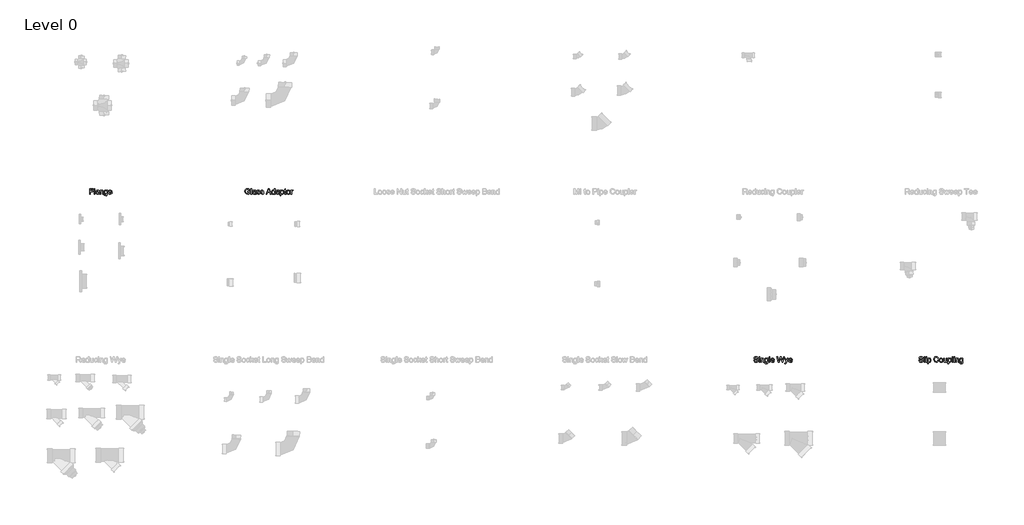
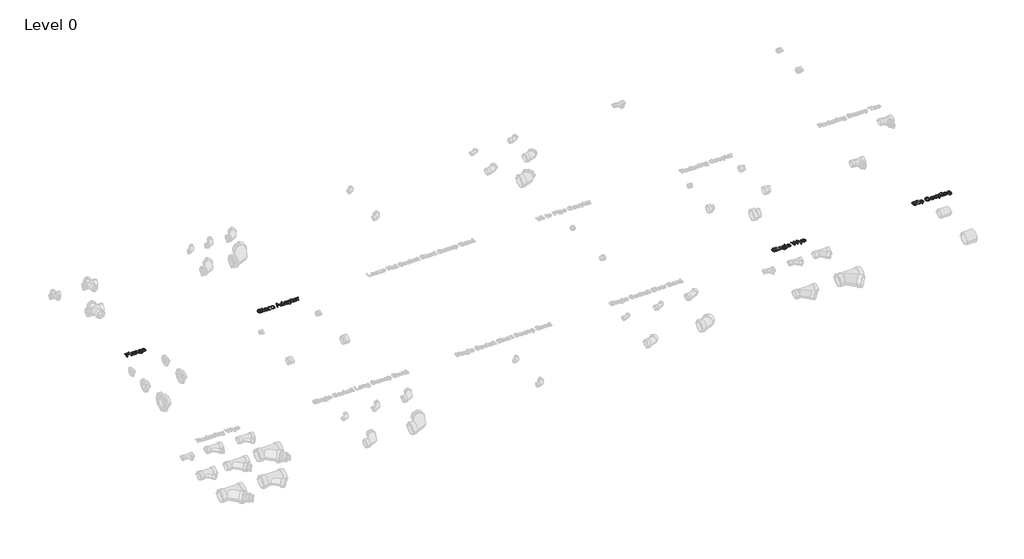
# One storey, part 4 of 10: 4 proxies.
"""IFC4 building model written with IfcOpenShell, lengths in millimetres."""

from ifc_helpers import new_model, si_unit, origin, origin_with_axes, place, context, project, spatial, polyline, outline, extrude, element, save

model = new_model("IFC4")

# Units and contexts
model_context = context("Model", 3, world=origin())
ifc_project = project(units=[si_unit("LENGTHUNIT", "METRE", prefix="MILLI")], contexts=[model_context])

# Site, building, storey
site = spatial("IfcSite", under=ifc_project)
building = spatial("IfcBuilding", under=site)
storey = spatial("IfcBuildingStorey", under=building, Name="Level 0", Elevation=0.0)

# Proxies
placement = place(None, origin())
element("IfcBuildingElementProxy", 1, Name="75mm Arial", ObjectType="75mm Arial", at=placement, inside=storey, context=model_context, shape_type="SweptSolid", body=[
    extrude(outline(polyline([(-5067.60018, 1135.4704713), (-5067.60018, 1144.7012405), (-5037.60018, 1144.7012405), (-5037.60018, 1117.0990771), (-5052.4108771, 1108.3911444), (-5068.06893, 1105.4704713), (-5087.7834733, 1110.1128992), (-5101.1608771, 1123.553404), (-5105.6771031, 1143.1868175), (-5101.178906, 1163.2619377), (-5088.2432089, 1177.0990771), (-5068.8081127, 1181.6243175), (-5054.3670069, 1179.0011203), (-5044.2438098, 1171.6994377), (-5038.6638819, 1159.4848944), (-5047.1734973, 1157.0870578), (-5051.3832329, 1165.6237165), (-5058.5767425, 1170.5455915), (-5068.9523435, 1172.3935482), (-5080.7702521, 1170.4013607), (-5088.8111175, 1165.1729953), (-5093.5617185, 1158.0606155), (-5096.4463339, 1143.5654232), (-5092.975781, 1127.474678), (-5082.8796271, 1117.8472742), (-5068.8081127, 1114.7012405), (-5056.178906, 1117.0720338), (-5046.8309492, 1122.1291252), (-5046.8309492, 1135.4704713), (-5067.60018, 1135.4704713)])), origin_with_axes(), (0.0, 0.0, 1.0), 10.0),
    extrude(outline(polyline([(-5023.7540262, 1106.6243175), (-5023.7540262, 1180.4704713), (-5014.5232569, 1180.4704713), (-5014.5232569, 1106.6243175), (-5023.7540262, 1106.6243175)])), origin_with_axes(), (0.0, 0.0, 1.0), 10.0),
    extrude(outline(polyline([(-4966.0617185, 1113.5473944), (-4975.0130406, 1107.2913848), (-4984.9018627, 1105.4704713), (-4998.3063098, 1109.8514809), (-5002.9847954, 1121.0473944), (-5001.2179685, 1128.3490771), (-4996.5755406, 1133.6495578), (-4990.1121992, 1136.678404), (-4982.1254204, 1138.0666252), (-4966.115805, 1141.2397021), (-4966.0617185, 1143.2949905), (-4968.6037858, 1150.1098944), (-4978.8081127, 1152.7781636), (-4988.147055, 1151.0023223), (-4992.60018, 1144.7012405), (-5001.8309492, 1145.8550867), (-4997.8375598, 1154.8695098), (-4989.7966944, 1160.1519617), (-4977.6182089, 1162.0089328), (-4966.4313098, 1160.3683078), (-4960.1121992, 1156.2487165), (-4957.2816704, 1149.9836925), (-4956.8309492, 1141.9067694), (-4956.8309492, 1130.4223944), (-4956.3621992, 1114.3857357), (-4954.5232569, 1106.6243175), (-4963.7540262, 1106.6243175), (-4966.0617185, 1113.5473944)]), holes=[polyline([(-4966.0617185, 1132.0089328), (-4980.9535454, 1129.178404), (-4988.8952521, 1127.6820098), (-4992.4920069, 1125.2481155), (-4993.7540262, 1121.6964328), (-4991.0046271, 1116.7024425), (-4982.9367185, 1114.7012405), (-4973.5977762, 1116.9097742), (-4967.5761416, 1122.2553271), (-4966.115805, 1129.3947502), (-4966.0617185, 1132.0089328)])]), origin_with_axes(), (0.0, 0.0, 1.0), 10.0),
    extrude(outline(polyline([(-4947.60018, 1122.7781636), (-4938.3694108, 1123.9320098), (-4934.0965742, 1117.0810482), (-4924.3069108, 1114.7012405), (-4914.8958531, 1116.8827309), (-4911.8309492, 1122.0029232), (-4914.9138819, 1126.1495578), (-4924.4150839, 1128.7817694), (-4938.3153242, 1133.2979953), (-4944.382031, 1138.5714328), (-4946.4463339, 1146.0173463), (-4944.78768, 1152.8953511), (-4940.2624396, 1158.1507598), (-4934.3940502, 1160.88213), (-4926.4523435, 1162.0089328), (-4915.2203723, 1160.1970338), (-4908.0809492, 1155.2931877), (-4904.9078723, 1147.0089328), (-4914.1386416, 1145.8550867), (-4917.6091944, 1150.9482357), (-4925.7311896, 1152.7781636), (-4934.5653242, 1151.0293655), (-4937.2155646, 1146.9548463), (-4936.115805, 1144.2685482), (-4932.6722954, 1142.2312886), (-4924.7215742, 1140.2661444), (-4911.1728964, 1135.9211925), (-4904.8808291, 1130.9993175), (-4902.60018, 1122.9764809), (-4905.2774637, 1114.1423463), (-4913.0028242, 1107.7330915), (-4924.4331127, 1105.4704713), (-4940.5328723, 1109.8334521), (-4947.60018, 1122.7781636)])), origin_with_axes(), (0.0, 0.0, 1.0), 10.0),
    extrude(outline(polyline([(-4895.6771031, 1122.7781636), (-4886.4463339, 1123.9320098), (-4882.1734973, 1117.0810482), (-4872.3838339, 1114.7012405), (-4862.9727762, 1116.8827309), (-4859.9078723, 1122.0029232), (-4862.990805, 1126.1495578), (-4872.4920069, 1128.7817694), (-4886.3922473, 1133.2979953), (-4892.4589541, 1138.5714328), (-4894.5232569, 1146.0173463), (-4892.8646031, 1152.8953511), (-4888.3393627, 1158.1507598), (-4882.4709733, 1160.88213), (-4874.5292666, 1162.0089328), (-4863.2972954, 1160.1970338), (-4856.1578723, 1155.2931877), (-4852.9847954, 1147.0089328), (-4862.2155646, 1145.8550867), (-4865.6861175, 1150.9482357), (-4873.8081127, 1152.7781636), (-4882.6422473, 1151.0293655), (-4885.2924877, 1146.9548463), (-4884.1927281, 1144.2685482), (-4880.7492185, 1142.2312886), (-4872.7984973, 1140.2661444), (-4859.2498194, 1135.9211925), (-4852.9577521, 1130.9993175), (-4850.6771031, 1122.9764809), (-4853.3543867, 1114.1423463), (-4861.0797473, 1107.7330915), (-4872.5100358, 1105.4704713), (-4888.6097954, 1109.8334521), (-4895.6771031, 1122.7781636)])), origin_with_axes(), (0.0, 0.0, 1.0), 10.0),
    extrude(outline(polyline([(-4818.8922473, 1106.6243175), (-4789.4150839, 1180.4704713), (-4781.5545069, 1180.4704713), (-4752.0773435, 1106.6243175), (-4761.8309492, 1106.6243175), (-4770.2864781, 1129.7012405), (-4800.7011416, 1129.7012405), (-4809.1386416, 1106.6243175), (-4818.8922473, 1106.6243175)]), holes=[polyline([(-4797.3117185, 1138.9320098), (-4773.6578723, 1138.9320098), (-4780.3105166, 1157.0870578), (-4785.4847954, 1171.2397021), (-4790.0821512, 1158.6735963), (-4797.3117185, 1138.9320098)])]), origin_with_axes(), (0.0, 0.0, 1.0), 10.0),
    extrude(outline(polyline([(-4709.9078723, 1106.6243175), (-4709.9078723, 1115.3322502), (-4716.015144, 1107.935916), (-4724.4571512, 1105.4704713), (-4735.8874396, 1109.0401828), (-4743.9643627, 1119.0011203), (-4746.8309492, 1133.6856155), (-4744.1897233, 1148.3791252), (-4736.2750598, 1158.4933078), (-4724.4932089, 1162.0089328), (-4715.9835935, 1159.4939088), (-4709.9078723, 1152.9584521), (-4709.9078723, 1180.4704713), (-4700.6771031, 1180.4704713), (-4700.6771031, 1106.6243175), (-4709.9078723, 1106.6243175)]), holes=[polyline([(-4737.60018, 1133.7216732), (-4733.4355166, 1119.4338127), (-4723.6097954, 1114.7012405), (-4713.9012617, 1119.2174665), (-4709.9078723, 1133.0185482), (-4713.9733771, 1148.0005194), (-4723.9884012, 1152.7781636), (-4733.7059492, 1148.1898223), (-4737.60018, 1133.7216732)])]), origin_with_axes(), (0.0, 0.0, 1.0), 10.0),
    extrude(outline(polyline([(-4652.2155646, 1113.5473944), (-4661.1668867, 1107.2913848), (-4671.0557089, 1105.4704713), (-4684.460156, 1109.8514809), (-4689.1386416, 1121.0473944), (-4687.3718146, 1128.3490771), (-4682.7293867, 1133.6495578), (-4676.2660454, 1136.678404), (-4668.2792666, 1138.0666252), (-4652.2696512, 1141.2397021), (-4652.2155646, 1143.2949905), (-4654.7576319, 1150.1098944), (-4664.9619589, 1152.7781636), (-4674.3009012, 1151.0023223), (-4678.7540262, 1144.7012405), (-4687.9847954, 1145.8550867), (-4683.991406, 1154.8695098), (-4675.9505406, 1160.1519617), (-4663.772055, 1162.0089328), (-4652.585156, 1160.3683078), (-4646.2660454, 1156.2487165), (-4643.4355166, 1149.9836925), (-4642.9847954, 1141.9067694), (-4642.9847954, 1130.4223944), (-4642.5160454, 1114.3857357), (-4640.6771031, 1106.6243175), (-4649.9078723, 1106.6243175), (-4652.2155646, 1113.5473944)]), holes=[polyline([(-4652.2155646, 1132.0089328), (-4667.1073916, 1129.178404), (-4675.0490983, 1127.6820098), (-4678.6458531, 1125.2481155), (-4679.9078723, 1121.6964328), (-4677.1584733, 1116.7024425), (-4669.0905646, 1114.7012405), (-4659.7516223, 1116.9097742), (-4653.7299877, 1122.2553271), (-4652.2696512, 1129.3947502), (-4652.2155646, 1132.0089328)])]), origin_with_axes(), (0.0, 0.0, 1.0), 10.0),
    extrude(outline(polyline([(-4630.2924877, 1085.8550867), (-4630.2924877, 1160.8550867), (-4621.0617185, 1160.8550867), (-4621.0617185, 1151.8046059), (-4614.6795069, 1159.4578511), (-4606.0617185, 1162.0089328), (-4594.3609973, 1158.4392213), (-4586.7167666, 1148.3791252), (-4584.1386416, 1134.1543655), (-4587.0503002, 1119.1994377), (-4595.5058291, 1109.0131396), (-4607.1795069, 1105.4704713), (-4615.2113579, 1107.8412646), (-4621.0617185, 1113.8358559), (-4621.0617185, 1085.8550867), (-4630.2924877, 1085.8550867)]), holes=[polyline([(-4621.0617185, 1133.3070098), (-4617.0683291, 1119.2445098), (-4607.3778242, 1114.7012405), (-4597.4890021, 1119.4067694), (-4593.3694108, 1133.9921059), (-4597.3898435, 1148.0906636), (-4606.9992185, 1152.7781636), (-4616.7978964, 1147.7931877), (-4621.0617185, 1133.3070098)])]), origin_with_axes(), (0.0, 0.0, 1.0), 10.0),
    extrude(outline(polyline([(-4554.1386416, 1114.3226348), (-4552.9847954, 1106.3538848), (-4559.8898435, 1105.4704713), (-4567.6242185, 1107.0029232), (-4571.4823916, 1111.0233559), (-4572.60018, 1121.4981155), (-4572.60018, 1151.6243175), (-4579.5232569, 1151.6243175), (-4579.5232569, 1160.8550867), (-4572.60018, 1160.8550867), (-4572.60018, 1174.0341732), (-4563.3694108, 1179.4608559), (-4563.3694108, 1160.8550867), (-4554.1386416, 1160.8550867), (-4554.1386416, 1151.6243175), (-4563.3694108, 1151.6243175), (-4563.3694108, 1121.7685482), (-4562.8826319, 1117.0089328), (-4561.3051079, 1115.3232357), (-4558.1590742, 1114.7012405), (-4554.1386416, 1114.3226348)])), origin_with_axes(), (0.0, 0.0, 1.0), 10.0),
    extrude(outline(polyline([(-4547.2155646, 1133.7397021), (-4545.2188699, 1146.8151228), (-4539.2287858, 1156.0053271), (-4531.8279444, 1160.5080314), (-4522.9667666, 1162.0089328), (-4513.2695009, 1160.1812586), (-4505.5238579, 1154.6982357), (-4500.4464841, 1145.9925566), (-4498.7540262, 1134.4969136), (-4501.7468146, 1118.0726348), (-4510.4637617, 1108.7787646), (-4522.9667666, 1105.4704713), (-4532.7812197, 1107.2913848), (-4540.5178483, 1112.7541252), (-4545.5411355, 1121.6423463), (-4547.2155646, 1133.7397021)]), holes=[polyline([(-4537.9847954, 1133.7577309), (-4533.7119589, 1119.4518415), (-4522.9667666, 1114.7012405), (-4512.2576319, 1119.4788848), (-4507.9847954, 1134.0461925), (-4512.2846752, 1148.0275627), (-4522.9667666, 1152.7781636), (-4533.7119589, 1148.0455915), (-4537.9847954, 1133.7577309)])]), origin_with_axes(), (0.0, 0.0, 1.0), 10.0),
    extrude(outline(polyline([(-4488.3694108, 1106.6243175), (-4488.3694108, 1160.8550867), (-4480.2924877, 1160.8550867), (-4480.2924877, 1152.8322502), (-4474.5593146, 1160.2240771), (-4468.7900839, 1162.0089328), (-4459.5232569, 1159.1603752), (-4462.6061896, 1150.8851348), (-4469.0965742, 1152.7781636), (-4474.3159252, 1150.9572502), (-4477.6422473, 1145.9091732), (-4479.1386416, 1135.1279232), (-4479.1386416, 1106.6243175), (-4488.3694108, 1106.6243175)])), origin_with_axes(), (0.0, 0.0, 1.0), 10.0),
])
element("IfcBuildingElementProxy", 2, Name="75mm Arial", ObjectType="75mm Arial", at=placement, inside=storey, context=model_context, shape_type="SweptSolid", body=[
    extrude(outline(polyline([(-7183.1771031, 1106.6243175), (-7183.1771031, 1180.4704713), (-7133.5617185, 1180.4704713), (-7133.5617185, 1171.2397021), (-7173.9463339, 1171.2397021), (-7173.9463339, 1149.3166252), (-7139.3309492, 1149.3166252), (-7139.3309492, 1140.0858559), (-7173.9463339, 1140.0858559), (-7173.9463339, 1106.6243175), (-7183.1771031, 1106.6243175)])), origin_with_axes(), (0.0, 0.0, 1.0), 10.0),
    extrude(outline(polyline([(-7122.0232569, 1106.6243175), (-7122.0232569, 1180.4704713), (-7112.7924877, 1180.4704713), (-7112.7924877, 1106.6243175), (-7122.0232569, 1106.6243175)])), origin_with_axes(), (0.0, 0.0, 1.0), 10.0),
    extrude(outline(polyline([(-7064.3309492, 1113.5473944), (-7073.2822714, 1107.2913848), (-7083.1710935, 1105.4704713), (-7096.5755406, 1109.8514809), (-7101.2540262, 1121.0473944), (-7099.4871992, 1128.3490771), (-7094.8447714, 1133.6495578), (-7088.38143, 1136.678404), (-7080.3946512, 1138.0666252), (-7064.3850358, 1141.2397021), (-7064.3309492, 1143.2949905), (-7066.8730166, 1150.1098944), (-7077.0773435, 1152.7781636), (-7086.4162858, 1151.0023223), (-7090.8694108, 1144.7012405), (-7100.10018, 1145.8550867), (-7096.1067906, 1154.8695098), (-7088.0659252, 1160.1519617), (-7075.8874396, 1162.0089328), (-7064.7005406, 1160.3683078), (-7058.38143, 1156.2487165), (-7055.5509012, 1149.9836925), (-7055.10018, 1141.9067694), (-7055.10018, 1130.4223944), (-7054.63143, 1114.3857357), (-7052.7924877, 1106.6243175), (-7062.0232569, 1106.6243175), (-7064.3309492, 1113.5473944)]), holes=[polyline([(-7064.3309492, 1132.0089328), (-7079.2227762, 1129.178404), (-7087.1644829, 1127.6820098), (-7090.7612377, 1125.2481155), (-7092.0232569, 1121.6964328), (-7089.2738579, 1116.7024425), (-7081.2059492, 1114.7012405), (-7071.8670069, 1116.9097742), (-7065.8453723, 1122.2553271), (-7064.3850358, 1129.3947502), (-7064.3309492, 1132.0089328)])]), origin_with_axes(), (0.0, 0.0, 1.0), 10.0),
    extrude(outline(polyline([(-7042.4078723, 1106.6243175), (-7042.4078723, 1160.8550867), (-7033.1771031, 1160.8550867), (-7033.1771031, 1153.2829713), (-7026.1188098, 1159.8274425), (-7016.4823916, 1162.0089328), (-7007.7654444, 1160.2511203), (-7001.8159252, 1155.6357357), (-6999.0484973, 1148.8478752), (-6998.5617185, 1139.9235963), (-6998.5617185, 1106.6243175), (-7007.7924877, 1106.6243175), (-7007.7924877, 1138.6796059), (-7008.8561896, 1146.8466732), (-7012.6152041, 1151.1645819), (-7018.9523435, 1152.7781636), (-7028.9673675, 1149.1543655), (-7033.1771031, 1135.3983559), (-7033.1771031, 1106.6243175), (-7042.4078723, 1106.6243175)])), origin_with_axes(), (0.0, 0.0, 1.0), 10.0),
    extrude(outline(polyline([(-6988.1771031, 1102.0089328), (-6978.9463339, 1100.8550867), (-6975.9535454, 1095.9872982), (-6966.9932089, 1093.9320098), (-6957.5460935, 1096.2577309), (-6953.0388819, 1102.7841732), (-6952.4078723, 1113.5473944), (-6958.9072714, 1108.3550867), (-6966.8309492, 1106.6243175), (-6976.3479264, 1108.639041), (-6983.444531, 1114.6832117), (-6987.8593447, 1123.5443896), (-6989.3309492, 1134.0101348), (-6986.6897233, 1148.3160242), (-6979.0454925, 1158.4392213), (-6967.2816704, 1162.0089328), (-6959.0469949, 1159.9897021), (-6952.4078723, 1153.9320098), (-6952.4078723, 1160.8550867), (-6943.1771031, 1160.8550867), (-6943.1771031, 1114.0341732), (-6945.7011416, 1096.1044857), (-6953.6969348, 1087.7661444), (-6967.1734973, 1084.7012405), (-6982.5250598, 1089.0191492), (-6986.8632509, 1094.4255494), (-6988.1771031, 1102.0089328)]), holes=[polyline([(-6980.10018, 1134.6411444), (-6976.1608771, 1120.3532838), (-6966.272055, 1115.8550867), (-6956.4012617, 1120.3262405), (-6952.4078723, 1134.3707117), (-6956.5184492, 1148.1357357), (-6966.4162858, 1152.7781636), (-6976.1067906, 1148.2078511), (-6980.10018, 1134.6411444)])]), origin_with_axes(), (0.0, 0.0, 1.0), 10.0),
    extrude(outline(polyline([(-6891.3621992, 1122.7781636), (-6882.3117185, 1121.6243175), (-6890.7762617, 1109.7072502), (-6906.5424877, 1105.4704713), (-6917.373317, 1107.2981456), (-6925.7071512, 1112.7811684), (-6931.0211536, 1121.5634701), (-6932.7924877, 1133.2889809), (-6931.0031247, 1145.4088728), (-6925.6350358, 1154.4728752), (-6917.4138819, 1160.1249184), (-6907.0653242, 1162.0089328), (-6897.0390322, 1160.1294256), (-6889.0274637, 1154.490904), (-6883.7743086, 1145.4449304), (-6882.0232569, 1133.3430675), (-6882.0773435, 1130.8550867), (-6923.5617185, 1130.8550867), (-6918.2522233, 1118.865904), (-6906.3621992, 1114.7012405), (-6897.3117185, 1116.6303271), (-6891.3621992, 1122.7781636)]), holes=[polyline([(-6923.5617185, 1140.0858559), (-6891.2540262, 1140.0858559), (-6894.9499396, 1148.4512405), (-6907.1013819, 1152.7781636), (-6918.4685694, 1149.3256396), (-6923.5617185, 1140.0858559)])]), origin_with_axes(), (0.0, 0.0, 1.0), 10.0),
])
element("IfcBuildingElementProxy", 3, Name="75mm Arial", ObjectType="75mm Arial", at=placement, inside=storey, context=model_context, shape_type="SweptSolid", body=[
    extrude(outline(polyline([(3917.9767431, -1117.9910672), (3927.2075123, -1117.9910672), (3930.1822719, -1127.2308508), (3937.4478969, -1133.072197), (3948.5176084, -1135.2987595), (3958.1630411, -1133.6130623), (3964.3920075, -1128.9796489), (3966.4382815, -1122.7867402), (3964.9058296, -1117.0265239), (3958.6317911, -1112.8348172), (3945.1912863, -1109.3101777), (3930.7231373, -1104.7578941), (3922.8715748, -1097.8889037), (3920.2844354, -1088.712221), (3923.4845556, -1078.2645047), (3932.8325123, -1070.8907066), (3946.5164065, -1068.3756825), (3961.1197719, -1071.0078941), (3970.8553488, -1078.7422691), (3974.5152046, -1090.2987595), (3965.2844354, -1090.2987595), (3960.05607, -1080.8155864), (3946.8769834, -1077.6064518), (3933.6618392, -1080.7795287), (3929.5152046, -1088.4417883), (3932.4539065, -1094.8420287), (3947.5260219, -1099.9982787), (3963.8601565, -1104.6316922), (3972.7934498, -1112.1136633), (3975.6690508, -1122.5523652), (3972.3607575, -1133.5950335), (3962.8415267, -1141.6539277), (3948.8781854, -1144.5295287), (3932.3908056, -1141.4285672), (3921.9611181, -1132.0896248), (3917.9767431, -1117.9910672)])), origin_with_axes(), (0.0, 0.0, 1.0), 10.0),
    extrude(outline(polyline([(3988.3613584, -1143.3756825), (3988.3613584, -1069.5295287), (3997.5921277, -1069.5295287), (3997.5921277, -1143.3756825), (3988.3613584, -1143.3756825)])), origin_with_axes(), (0.0, 0.0, 1.0), 10.0),
    extrude(outline(polyline([(4011.4382815, -1143.3756825), (4011.4382815, -1089.1449133), (4020.6690508, -1089.1449133), (4020.6690508, -1143.3756825), (4011.4382815, -1143.3756825)])), origin_with_axes(), (0.0, 0.0, 1.0), 10.0),
    extrude(outline(polyline([(4011.4382815, -1078.7602979), (4011.4382815, -1069.5295287), (4020.6690508, -1069.5295287), (4020.6690508, -1078.7602979), (4011.4382815, -1078.7602979)])), origin_with_axes(), (0.0, 0.0, 1.0), 10.0),
    extrude(outline(polyline([(4034.5152046, -1164.1449133), (4034.5152046, -1089.1449133), (4043.7459738, -1089.1449133), (4043.7459738, -1098.1953941), (4050.1281854, -1090.5421489), (4058.7459738, -1087.9910672), (4070.446695, -1091.5607787), (4078.0909258, -1101.6208748), (4080.6690508, -1115.8456345), (4077.7573921, -1130.8005623), (4069.3018633, -1140.9868604), (4057.6281854, -1144.5295287), (4049.5963344, -1142.1587354), (4043.7459738, -1136.1641441), (4043.7459738, -1164.1449133), (4034.5152046, -1164.1449133)]), holes=[polyline([(4043.7459738, -1116.6929902), (4047.7393633, -1130.7554902), (4057.4298681, -1135.2987595), (4067.3186902, -1130.5932306), (4071.4382815, -1116.0078941), (4067.4178488, -1101.9093364), (4057.8084738, -1097.2218364), (4048.0097959, -1102.2068123), (4043.7459738, -1116.6929902)])]), origin_with_axes(), (0.0, 0.0, 1.0), 10.0),
    extrude(outline(polyline([(4172.9767431, -1117.1256825), (4182.2075123, -1119.5054902), (4177.9481974, -1130.2619506), (4171.2640027, -1138.1202739), (4162.4839546, -1142.927215), (4151.9370796, -1144.5295287), (4132.727344, -1139.6797691), (4121.4593152, -1125.6352979), (4117.5921277, -1105.8937114), (4121.9641229, -1085.8276056), (4134.3950123, -1072.8197931), (4152.1353969, -1068.3756825), (4162.2563404, -1069.813483), (4170.6239786, -1074.1268845), (4176.9768933, -1081.0499614), (4181.0536661, -1090.3167883), (4171.8228969, -1092.5163075), (4164.2507815, -1081.1671489), (4151.77482, -1077.6064518), (4137.3337142, -1081.5547691), (4129.1756613, -1092.1557306), (4126.8228969, -1105.8756825), (4129.6083536, -1121.7771248), (4138.2802286, -1131.9363797), (4151.0176084, -1135.2987595), (4165.1432094, -1130.7194325), (4172.9767431, -1117.1256825)])), origin_with_axes(), (0.0, 0.0, 1.0), 10.0),
    extrude(outline(polyline([(4191.4382815, -1116.2602979), (4193.4349762, -1103.1848772), (4199.4250604, -1093.9946729), (4206.8259017, -1089.4919686), (4215.6870796, -1087.9910672), (4225.3843452, -1089.8187414), (4233.1299883, -1095.3017643), (4238.2073621, -1104.0074434), (4239.89982, -1115.5030864), (4236.9070315, -1131.9273652), (4228.1900844, -1141.2212354), (4215.6870796, -1144.5295287), (4205.8726265, -1142.7086152), (4198.1359979, -1137.2458748), (4193.1127106, -1128.3576537), (4191.4382815, -1116.2602979)]), holes=[polyline([(4200.6690508, -1116.2422691), (4204.9418873, -1130.5481585), (4215.6870796, -1135.2987595), (4226.3962142, -1130.5211152), (4230.6690508, -1115.9538075), (4226.3691709, -1101.9724373), (4215.6870796, -1097.2218364), (4204.9418873, -1101.9544085), (4200.6690508, -1116.2422691)])]), origin_with_axes(), (0.0, 0.0, 1.0), 10.0),
    extrude(outline(polyline([(4284.89982, -1143.3756825), (4284.89982, -1134.0547691), (4277.6702527, -1141.9108388), (4268.2411661, -1144.5295287), (4259.5602767, -1142.6905864), (4253.5746998, -1138.0752018), (4250.8253008, -1131.2783268), (4250.2844354, -1122.696596), (4250.2844354, -1089.1449133), (4259.5152046, -1089.1449133), (4259.5152046, -1118.3516441), (4260.0740988, -1127.7627018), (4263.7249402, -1133.2885431), (4270.602945, -1135.2987595), (4278.3102767, -1133.243471), (4283.4034258, -1127.6455143), (4284.89982, -1117.3600575), (4284.89982, -1089.1449133), (4294.1305892, -1089.1449133), (4294.1305892, -1143.3756825), (4284.89982, -1143.3756825)])), origin_with_axes(), (0.0, 0.0, 1.0), 10.0),
    extrude(outline(polyline([(4306.8228969, -1164.1449133), (4306.8228969, -1089.1449133), (4316.0536661, -1089.1449133), (4316.0536661, -1098.1953941), (4322.4358777, -1090.5421489), (4331.0536661, -1087.9910672), (4342.7543873, -1091.5607787), (4350.3986181, -1101.6208748), (4352.9767431, -1115.8456345), (4350.0650844, -1130.8005623), (4341.6095556, -1140.9868604), (4329.9358777, -1144.5295287), (4321.9040267, -1142.1587354), (4316.0536661, -1136.1641441), (4316.0536661, -1164.1449133), (4306.8228969, -1164.1449133)]), holes=[polyline([(4316.0536661, -1116.6929902), (4320.0470556, -1130.7554902), (4329.7375604, -1135.2987595), (4339.6263825, -1130.5932306), (4343.7459738, -1116.0078941), (4339.7255411, -1101.9093364), (4330.1161661, -1097.2218364), (4320.3174883, -1102.2068123), (4316.0536661, -1116.6929902)])]), origin_with_axes(), (0.0, 0.0, 1.0), 10.0),
    extrude(outline(polyline([(4363.3613584, -1143.3756825), (4363.3613584, -1069.5295287), (4372.5921277, -1069.5295287), (4372.5921277, -1143.3756825), (4363.3613584, -1143.3756825)])), origin_with_axes(), (0.0, 0.0, 1.0), 10.0),
    extrude(outline(polyline([(4386.4382815, -1143.3756825), (4386.4382815, -1089.1449133), (4395.6690508, -1089.1449133), (4395.6690508, -1143.3756825), (4386.4382815, -1143.3756825)])), origin_with_axes(), (0.0, 0.0, 1.0), 10.0),
    extrude(outline(polyline([(4386.4382815, -1078.7602979), (4386.4382815, -1069.5295287), (4395.6690508, -1069.5295287), (4395.6690508, -1078.7602979), (4386.4382815, -1078.7602979)])), origin_with_axes(), (0.0, 0.0, 1.0), 10.0),
    extrude(outline(polyline([(4409.5152046, -1143.3756825), (4409.5152046, -1089.1449133), (4418.7459738, -1089.1449133), (4418.7459738, -1096.7170287), (4425.8042671, -1090.1725575), (4435.4406854, -1087.9910672), (4444.1576325, -1089.7488797), (4450.1071517, -1094.3642643), (4452.8745796, -1101.1521248), (4453.3613584, -1110.0764037), (4453.3613584, -1143.3756825), (4444.1305892, -1143.3756825), (4444.1305892, -1111.3203941), (4443.0668873, -1103.1533268), (4439.3078729, -1098.8354181), (4432.9707334, -1097.2218364), (4422.9557094, -1100.8456345), (4418.7459738, -1114.6016441), (4418.7459738, -1143.3756825), (4409.5152046, -1143.3756825)])), origin_with_axes(), (0.0, 0.0, 1.0), 10.0),
    extrude(outline(polyline([(4463.7459738, -1147.9910672), (4472.9767431, -1149.1449133), (4475.9695315, -1154.0127018), (4484.9298681, -1156.0679902), (4494.3769834, -1153.7422691), (4498.884195, -1147.2158268), (4499.5152046, -1136.4526056), (4493.0158056, -1141.6449133), (4485.0921277, -1143.3756825), (4475.5751505, -1141.360959), (4468.4785459, -1135.3167883), (4464.0637322, -1126.4556104), (4462.5921277, -1115.9898652), (4465.2333536, -1101.6839758), (4472.8775844, -1091.5607787), (4484.6414065, -1087.9910672), (4492.876082, -1090.0102979), (4499.5152046, -1096.0679902), (4499.5152046, -1089.1449133), (4508.7459738, -1089.1449133), (4508.7459738, -1135.9658268), (4506.2219354, -1153.8955143), (4498.2261421, -1162.2338556), (4484.7495796, -1165.2987595), (4469.3980171, -1160.9808508), (4465.059826, -1155.5744506), (4463.7459738, -1147.9910672)]), holes=[polyline([(4471.8228969, -1115.3588556), (4475.7621998, -1129.6467162), (4485.6510219, -1134.1449133), (4495.5218152, -1129.6737595), (4499.5152046, -1115.6292883), (4495.4046277, -1101.8642643), (4485.5067911, -1097.2218364), (4475.8162863, -1101.7921489), (4471.8228969, -1115.3588556)])]), origin_with_axes(), (0.0, 0.0, 1.0), 10.0),
])
element("IfcBuildingElementProxy", 4, Name="75mm Arial", ObjectType="75mm Arial", at=placement, inside=storey, context=model_context, shape_type="SweptSolid", body=[
    extrude(outline(polyline([(1708.3613584, -1117.9910672), (1717.5921277, -1117.9910672), (1720.5668873, -1127.2308508), (1727.8325123, -1133.072197), (1738.9022238, -1135.2987595), (1748.5476565, -1133.6130623), (1754.7766229, -1128.9796489), (1756.8228969, -1122.7867402), (1755.290445, -1117.0265239), (1749.0164065, -1112.8348172), (1735.5759017, -1109.3101777), (1721.1077527, -1104.7578941), (1713.2561902, -1097.8889037), (1710.6690508, -1088.712221), (1713.8691709, -1078.2645047), (1723.2171277, -1070.8907066), (1736.9010219, -1068.3756825), (1751.5043873, -1071.0078941), (1761.2399642, -1078.7422691), (1764.89982, -1090.2987595), (1755.6690508, -1090.2987595), (1750.4406854, -1080.8155864), (1737.2615988, -1077.6064518), (1724.0464546, -1080.7795287), (1719.89982, -1088.4417883), (1722.8385219, -1094.8420287), (1737.9106373, -1099.9982787), (1754.2447719, -1104.6316922), (1763.1780652, -1112.1136633), (1766.0536661, -1122.5523652), (1762.7453729, -1133.5950335), (1753.2261421, -1141.6539277), (1739.2628008, -1144.5295287), (1722.7754209, -1141.4285672), (1712.3457334, -1132.0896248), (1708.3613584, -1117.9910672)])), origin_with_axes(), (0.0, 0.0, 1.0), 10.0),
    extrude(outline(polyline([(1778.7459738, -1143.3756825), (1778.7459738, -1089.1449133), (1787.9767431, -1089.1449133), (1787.9767431, -1143.3756825), (1778.7459738, -1143.3756825)])), origin_with_axes(), (0.0, 0.0, 1.0), 10.0),
    extrude(outline(polyline([(1778.7459738, -1078.7602979), (1778.7459738, -1069.5295287), (1787.9767431, -1069.5295287), (1787.9767431, -1078.7602979), (1778.7459738, -1078.7602979)])), origin_with_axes(), (0.0, 0.0, 1.0), 10.0),
    extrude(outline(polyline([(1801.8228969, -1143.3756825), (1801.8228969, -1089.1449133), (1811.0536661, -1089.1449133), (1811.0536661, -1096.7170287), (1818.1119594, -1090.1725575), (1827.7483777, -1087.9910672), (1836.4653248, -1089.7488797), (1842.414844, -1094.3642643), (1845.1822719, -1101.1521248), (1845.6690508, -1110.0764037), (1845.6690508, -1143.3756825), (1836.4382815, -1143.3756825), (1836.4382815, -1111.3203941), (1835.3745796, -1103.1533268), (1831.6155652, -1098.8354181), (1825.2784258, -1097.2218364), (1815.2634017, -1100.8456345), (1811.0536661, -1114.6016441), (1811.0536661, -1143.3756825), (1801.8228969, -1143.3756825)])), origin_with_axes(), (0.0, 0.0, 1.0), 10.0),
    extrude(outline(polyline([(1856.0536661, -1147.9910672), (1865.2844354, -1149.1449133), (1868.2772238, -1154.0127018), (1877.2375604, -1156.0679902), (1886.6846758, -1153.7422691), (1891.1918873, -1147.2158268), (1891.8228969, -1136.4526056), (1885.3234979, -1141.6449133), (1877.39982, -1143.3756825), (1867.8828428, -1141.360959), (1860.7862383, -1135.3167883), (1856.3714246, -1126.4556104), (1854.89982, -1115.9898652), (1857.5410459, -1101.6839758), (1865.1852767, -1091.5607787), (1876.9490988, -1087.9910672), (1885.1837743, -1090.0102979), (1891.8228969, -1096.0679902), (1891.8228969, -1089.1449133), (1901.0536661, -1089.1449133), (1901.0536661, -1135.9658268), (1898.5296277, -1153.8955143), (1890.5338344, -1162.2338556), (1877.0572719, -1165.2987595), (1861.7057094, -1160.9808508), (1857.3675183, -1155.5744506), (1856.0536661, -1147.9910672)]), holes=[polyline([(1864.1305892, -1115.3588556), (1868.0698921, -1129.6467162), (1877.9587142, -1134.1449133), (1887.8295075, -1129.6737595), (1891.8228969, -1115.6292883), (1887.71232, -1101.8642643), (1877.8144834, -1097.2218364), (1868.1239786, -1101.7921489), (1864.1305892, -1115.3588556)])]), origin_with_axes(), (0.0, 0.0, 1.0), 10.0),
    extrude(outline(polyline([(1914.89982, -1143.3756825), (1914.89982, -1069.5295287), (1924.1305892, -1069.5295287), (1924.1305892, -1143.3756825), (1914.89982, -1143.3756825)])), origin_with_axes(), (0.0, 0.0, 1.0), 10.0),
    extrude(outline(polyline([(1975.9454931, -1127.2218364), (1984.9959738, -1128.3756825), (1976.5314306, -1140.2927498), (1960.7652046, -1144.5295287), (1949.9343753, -1142.7018544), (1941.6005411, -1137.2188316), (1936.2865387, -1128.4365299), (1934.5152046, -1116.7110191), (1936.3045676, -1104.5911272), (1941.6726565, -1095.5271248), (1949.8938104, -1089.8750816), (1960.2423681, -1087.9910672), (1970.2686601, -1089.8705744), (1978.2802286, -1095.509096), (1983.5333837, -1104.5550696), (1985.2844354, -1116.6569325), (1985.2303488, -1119.1449133), (1943.7459738, -1119.1449133), (1949.055469, -1131.134096), (1960.9454931, -1135.2987595), (1969.9959738, -1133.3696729), (1975.9454931, -1127.2218364)]), holes=[polyline([(1943.7459738, -1109.9141441), (1976.0536661, -1109.9141441), (1972.3577527, -1101.5487595), (1960.2063104, -1097.2218364), (1948.8391229, -1100.6743604), (1943.7459738, -1109.9141441)])]), origin_with_axes(), (0.0, 0.0, 1.0), 10.0),
    extrude(outline(polyline([(2037.7303488, -1143.3756825), (2017.5921277, -1069.5295287), (2027.1113584, -1069.5295287), (2038.7940508, -1118.0631825), (2042.39982, -1133.0451537), (2046.2579931, -1119.7939518), (2060.8974161, -1069.5295287), (2074.6173681, -1069.5295287), (2085.2543873, -1105.9658268), (2093.1690508, -1133.0451537), (2096.6666469, -1118.4958748), (2108.4575123, -1069.5295287), (2117.9767431, -1069.5295287), (2097.8204931, -1143.3756825), (2087.9587142, -1143.3756825), (2070.2543873, -1086.4045287), (2067.7844354, -1078.4538075), (2065.0079931, -1088.0271248), (2048.8721758, -1143.3756825), (2037.7303488, -1143.3756825)])), origin_with_axes(), (0.0, 0.0, 1.0), 10.0),
    extrude(outline(polyline([(2126.0536661, -1164.1449133), (2124.89982, -1155.2566922), (2129.58732, -1156.0679902), (2133.9683296, -1155.0493604), (2136.6546277, -1152.2098172), (2139.1786661, -1145.4129422), (2139.89982, -1143.1773652), (2120.2844354, -1089.1449133), (2130.0200123, -1089.1449133), (2140.4226565, -1119.2530864), (2144.0464546, -1131.2963556), (2147.6702527, -1120.6593364), (2158.3613584, -1089.1449133), (2168.02482, -1089.1449133), (2149.1486181, -1144.6737595), (2144.2447719, -1156.7170287), (2138.8902046, -1163.2254422), (2131.696695, -1165.2987595), (2126.0536661, -1164.1449133)])), origin_with_axes(), (0.0, 0.0, 1.0), 10.0),
    extrude(outline(polyline([(2213.6378008, -1127.2218364), (2222.6882815, -1128.3756825), (2214.2237383, -1140.2927498), (2198.4575123, -1144.5295287), (2187.626683, -1142.7018544), (2179.2928488, -1137.2188316), (2173.9788464, -1128.4365299), (2172.2075123, -1116.7110191), (2173.9968753, -1104.5911272), (2179.3649642, -1095.5271248), (2187.5861181, -1089.8750816), (2197.9346758, -1087.9910672), (2207.9609678, -1089.8705744), (2215.9725363, -1095.509096), (2221.2256914, -1104.5550696), (2222.9767431, -1116.6569325), (2222.9226565, -1119.1449133), (2181.4382815, -1119.1449133), (2186.7477767, -1131.134096), (2198.6378008, -1135.2987595), (2207.6882815, -1133.3696729), (2213.6378008, -1127.2218364)]), holes=[polyline([(2181.4382815, -1109.9141441), (2213.7459738, -1109.9141441), (2210.0500604, -1101.5487595), (2197.8986181, -1097.2218364), (2186.5314306, -1100.6743604), (2181.4382815, -1109.9141441)])]), origin_with_axes(), (0.0, 0.0, 1.0), 10.0),
])

save(model, "model.ifc")
